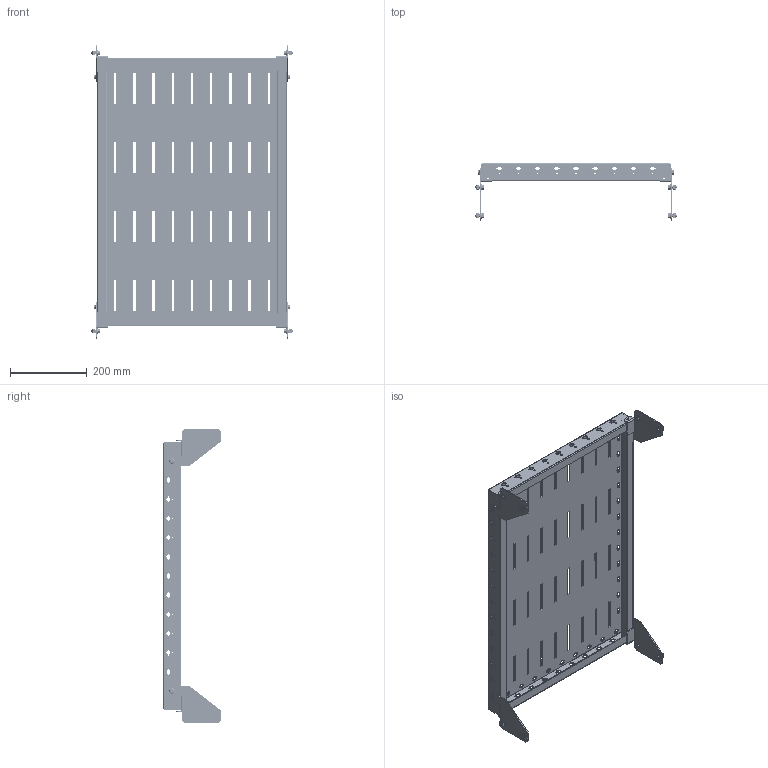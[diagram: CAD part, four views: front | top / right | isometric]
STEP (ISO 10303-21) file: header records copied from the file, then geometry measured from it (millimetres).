
FILE_DESCRIPTION (( 'STEP AP203' ), '1' );
FILE_NAME ('R5RFE68.STEP', '2022-06-29T08:40:53', ( '' ), ( '' ), 'SwSTEP 2.0', 'SolidWorks 2020', '' );
FILE_SCHEMA (( 'CONFIG_CONTROL_DESIGN' ));
Length unit declared in the file: millimetre
Products named in the file (7): RB.1704.00.00.0_-00; R5RFE68; M6 A3400002 Zinc_thread; Ì6 D87181 Zinc_In a tightened position (1.5 mm); RB.2364.00.00.0_04; RB.1704.00.00.0_- 01; M6x16 DIN 6921 cl.8,8 Zinc_thread
Assembly tree (29 placements, depth 2):
  R5RFE68
    RB.2364.00.00.0_04
    RB.1704.00.00.0_- 01  x2
    M6 A3400002 Zinc_thread  x8
    M6x16 DIN 6921 cl.8,8 Zinc_thread  x12
    RB.1704.00.00.0_-00  x2
    Ì6 D87181 Zinc_In a tightened position (1.5 mm)  x4
Bounding box: 526 x 148.6 x 765 mm (x, y, z)
Volume: 1116600.9 mm3; surface area: 1118557 mm2
Topology: 29 solids, 29 shells, 5282 faces, 14560 edges, 9284 vertices
Faces by surface type: cylinder 2140, plane 1754, cone 1076, bspline 216, torus 96
Entity records: 82658 total; most frequent: CARTESIAN_POINT 16489, DIRECTION 13895, ORIENTED_EDGE 13676, EDGE_CURVE 6838, AXIS2_PLACEMENT_3D 4955, VERTEX_POINT 4471, LINE 3985, VECTOR 3985
